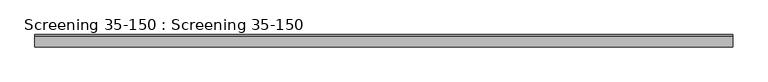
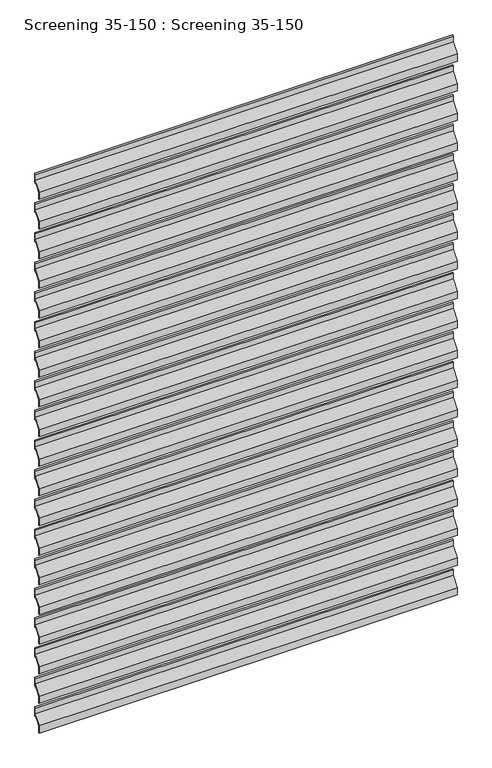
"""IFC4 building model written with IfcOpenShell, lengths in millimetres: plate geometry, Screening 35-150 : Screening 35-150."""

from ifc_helpers import new_model, si_unit, frame, origin, place, context, project, spatial, polyline, outline, extrude, source, transform, mapped, element, save


def screening_35_150_screening_35_150_5006e528(model_context):
    return source(origin(), model_context, "Body", "SweptSolid", [
        extrude(outline(polyline([(-34.9638304, 2712.1), (-34.9638304, 2748.1958995), (-4.35, 2791.9800402), (-4.35, 2819.1451224), (0.0, 2823.4298892), (0.0, 2776.6482493), (-13.0819089, 2776.6482493), (-33.4, 2747.5767062), (-33.4, 2712.1), (-34.9638304, 2712.1)])), frame((-1000.0, 0.0, 0.0), z_axis=(1.0, 0.0, 0.0), x_axis=(0.0, 1.0, 0.0)), (0.0, 0.0, 1.0), 2000.0),
        extrude(outline(polyline([(-34.9638304, 2562.1), (-34.9638304, 2598.1958995), (-4.35, 2641.9800402), (-4.35, 2669.1451224), (0.0, 2673.4298892), (0.0, 2626.6482493), (-13.0819089, 2626.6482493), (-33.4, 2597.5767062), (-33.4, 2562.1), (-34.9638304, 2562.1)])), frame((-1000.0, 0.0, 0.0), z_axis=(1.0, 0.0, 0.0), x_axis=(0.0, 1.0, 0.0)), (0.0, 0.0, 1.0), 2000.0),
        extrude(outline(polyline([(-34.9638304, 2412.1), (-34.9638304, 2448.1958995), (-4.35, 2491.9800402), (-4.35, 2519.1451224), (0.0, 2523.4298892), (0.0, 2476.6482493), (-13.0819089, 2476.6482493), (-33.4, 2447.5767062), (-33.4, 2412.1), (-34.9638304, 2412.1)])), frame((-1000.0, 0.0, 0.0), z_axis=(1.0, 0.0, 0.0), x_axis=(0.0, 1.0, 0.0)), (0.0, 0.0, 1.0), 2000.0),
        extrude(outline(polyline([(-34.9638304, 2262.1), (-34.9638304, 2298.1958995), (-4.35, 2341.9800402), (-4.35, 2369.1451224), (0.0, 2373.4298892), (0.0, 2326.6482493), (-13.0819089, 2326.6482493), (-33.4, 2297.5767062), (-33.4, 2262.1), (-34.9638304, 2262.1)])), frame((-1000.0, 0.0, 0.0), z_axis=(1.0, 0.0, 0.0), x_axis=(0.0, 1.0, 0.0)), (0.0, 0.0, 1.0), 2000.0),
        extrude(outline(polyline([(-34.9638304, 2112.1), (-34.9638304, 2148.1958995), (-4.35, 2191.9800402), (-4.35, 2219.1451224), (0.0, 2223.4298892), (0.0, 2176.6482493), (-13.0819089, 2176.6482493), (-33.4, 2147.5767062), (-33.4, 2112.1), (-34.9638304, 2112.1)])), frame((-1000.0, 0.0, 0.0), z_axis=(1.0, 0.0, 0.0), x_axis=(0.0, 1.0, 0.0)), (0.0, 0.0, 1.0), 2000.0),
        extrude(outline(polyline([(-34.9638304, 1962.1), (-34.9638304, 1998.1958995), (-4.35, 2041.9800402), (-4.35, 2069.1451224), (0.0, 2073.4298892), (0.0, 2026.6482493), (-13.0819089, 2026.6482493), (-33.4, 1997.5767062), (-33.4, 1962.1), (-34.9638304, 1962.1)])), frame((-1000.0, 0.0, 0.0), z_axis=(1.0, 0.0, 0.0), x_axis=(0.0, 1.0, 0.0)), (0.0, 0.0, 1.0), 2000.0),
        extrude(outline(polyline([(-34.9638304, 1812.1), (-34.9638304, 1848.1958995), (-4.35, 1891.9800402), (-4.35, 1919.1451224), (0.0, 1923.4298892), (0.0, 1876.6482493), (-13.0819089, 1876.6482493), (-33.4, 1847.5767062), (-33.4, 1812.1), (-34.9638304, 1812.1)])), frame((-1000.0, 0.0, 0.0), z_axis=(1.0, 0.0, 0.0), x_axis=(0.0, 1.0, 0.0)), (0.0, 0.0, 1.0), 2000.0),
        extrude(outline(polyline([(-34.9638304, 1662.1), (-34.9638304, 1698.1958995), (-4.35, 1741.9800402), (-4.35, 1769.1451224), (0.0, 1773.4298892), (0.0, 1726.6482493), (-13.0819089, 1726.6482493), (-33.4, 1697.5767062), (-33.4, 1662.1), (-34.9638304, 1662.1)])), frame((-1000.0, 0.0, 0.0), z_axis=(1.0, 0.0, 0.0), x_axis=(0.0, 1.0, 0.0)), (0.0, 0.0, 1.0), 2000.0),
        extrude(outline(polyline([(-34.9638304, 1512.1), (-34.9638304, 1548.1958995), (-4.35, 1591.9800402), (-4.35, 1619.1451224), (0.0, 1623.4298892), (0.0, 1576.6482493), (-13.0819089, 1576.6482493), (-33.4, 1547.5767062), (-33.4, 1512.1), (-34.9638304, 1512.1)])), frame((-1000.0, 0.0, 0.0), z_axis=(1.0, 0.0, 0.0), x_axis=(0.0, 1.0, 0.0)), (0.0, 0.0, 1.0), 2000.0),
        extrude(outline(polyline([(-34.9638304, 1362.1), (-34.9638304, 1398.1958995), (-4.35, 1441.9800402), (-4.35, 1469.1451224), (0.0, 1473.4298892), (0.0, 1426.6482493), (-13.0819089, 1426.6482493), (-33.4, 1397.5767062), (-33.4, 1362.1), (-34.9638304, 1362.1)])), frame((-1000.0, 0.0, 0.0), z_axis=(1.0, 0.0, 0.0), x_axis=(0.0, 1.0, 0.0)), (0.0, 0.0, 1.0), 2000.0),
        extrude(outline(polyline([(-34.9638304, 1212.1), (-34.9638304, 1248.1958995), (-4.35, 1291.9800402), (-4.35, 1319.1451224), (0.0, 1323.4298892), (0.0, 1276.6482493), (-13.0819089, 1276.6482493), (-33.4, 1247.5767062), (-33.4, 1212.1), (-34.9638304, 1212.1)])), frame((-1000.0, 0.0, 0.0), z_axis=(1.0, 0.0, 0.0), x_axis=(0.0, 1.0, 0.0)), (0.0, 0.0, 1.0), 2000.0),
        extrude(outline(polyline([(-34.9638304, 1062.1), (-34.9638304, 1098.1958995), (-4.35, 1141.9800402), (-4.35, 1169.1451224), (0.0, 1173.4298892), (0.0, 1126.6482493), (-13.0819089, 1126.6482493), (-33.4, 1097.5767062), (-33.4, 1062.1), (-34.9638304, 1062.1)])), frame((-1000.0, 0.0, 0.0), z_axis=(1.0, 0.0, 0.0), x_axis=(0.0, 1.0, 0.0)), (0.0, 0.0, 1.0), 2000.0),
        extrude(outline(polyline([(-34.9638304, 912.1), (-34.9638304, 948.1958995), (-4.35, 991.9800402), (-4.35, 1019.1451224), (0.0, 1023.4298892), (0.0, 976.6482493), (-13.0819089, 976.6482493), (-33.4, 947.5767062), (-33.4, 912.1), (-34.9638304, 912.1)])), frame((-1000.0, 0.0, 0.0), z_axis=(1.0, 0.0, 0.0), x_axis=(0.0, 1.0, 0.0)), (0.0, 0.0, 1.0), 2000.0),
        extrude(outline(polyline([(-34.9638304, 762.1), (-34.9638304, 798.1958995), (-4.35, 841.9800402), (-4.35, 869.1451224), (0.0, 873.4298892), (0.0, 826.6482493), (-13.0819089, 826.6482493), (-33.4, 797.5767062), (-33.4, 762.1), (-34.9638304, 762.1)])), frame((-1000.0, 0.0, 0.0), z_axis=(1.0, 0.0, 0.0), x_axis=(0.0, 1.0, 0.0)), (0.0, 0.0, 1.0), 2000.0),
        extrude(outline(polyline([(-34.9638304, 612.1), (-34.9638304, 648.1958995), (-4.35, 691.9800402), (-4.35, 719.1451224), (0.0, 723.4298892), (0.0, 676.6482493), (-13.0819089, 676.6482493), (-33.4, 647.5767062), (-33.4, 612.1), (-34.9638304, 612.1)])), frame((-1000.0, 0.0, 0.0), z_axis=(1.0, 0.0, 0.0), x_axis=(0.0, 1.0, 0.0)), (0.0, 0.0, 1.0), 2000.0),
        extrude(outline(polyline([(-34.9638304, 462.1), (-34.9638304, 498.1958995), (-4.35, 541.9800402), (-4.35, 569.1451224), (0.0, 573.4298892), (0.0, 526.6482493), (-13.0819089, 526.6482493), (-33.4, 497.5767062), (-33.4, 462.1), (-34.9638304, 462.1)])), frame((-1000.0, 0.0, 0.0), z_axis=(1.0, 0.0, 0.0), x_axis=(0.0, 1.0, 0.0)), (0.0, 0.0, 1.0), 2000.0),
        extrude(outline(polyline([(-34.9638304, 312.1), (-34.9638304, 348.1958995), (-4.35, 391.9800402), (-4.35, 419.1451224), (0.0, 423.4298892), (0.0, 376.6482493), (-13.0819089, 376.6482493), (-33.4, 347.5767062), (-33.4, 312.1), (-34.9638304, 312.1)])), frame((-1000.0, 0.0, 0.0), z_axis=(1.0, 0.0, 0.0), x_axis=(0.0, 1.0, 0.0)), (0.0, 0.0, 1.0), 2000.0),
        extrude(outline(polyline([(-34.9638304, 162.1), (-34.9638304, 198.1958995), (-4.35, 241.9800402), (-4.35, 269.1451224), (0.0, 273.4298892), (0.0, 226.6482493), (-13.0819089, 226.6482493), (-33.4, 197.5767062), (-33.4, 162.1), (-34.9638304, 162.1)])), frame((-1000.0, 0.0, 0.0), z_axis=(1.0, 0.0, 0.0), x_axis=(0.0, 1.0, 0.0)), (0.0, 0.0, 1.0), 2000.0),
        extrude(outline(polyline([(-34.9638304, 12.1), (-34.9638304, 48.1958995), (-4.35, 91.9800402), (-4.35, 119.1451224), (0.0, 123.4298892), (0.0, 76.6482493), (-13.0819089, 76.6482493), (-33.4, 47.5767062), (-33.4, 12.1), (-34.9638304, 12.1)])), frame((-1000.0, 0.0, 0.0), z_axis=(1.0, 0.0, 0.0), x_axis=(0.0, 1.0, 0.0)), (0.0, 0.0, 1.0), 2000.0),
    ])


if __name__ == "__main__":
    model = new_model("IFC4")
    model_context = context("Model", 3, world=origin())
    ifc_project = project(units=[si_unit("LENGTHUNIT", "METRE", prefix="MILLI")], contexts=[model_context])
    site = spatial("IfcSite", under=ifc_project)
    building = spatial("IfcBuilding", under=site)
    placement = place(None, origin())
    screening_35_150_screening_35_150_shape = screening_35_150_screening_35_150_5006e528(model_context)
    element("IfcPlate", 1, ObjectType="Screening 35-150 : Screening 35-150", at=placement, inside=building, context=model_context, shape_type="MappedRepresentation", body=[
        mapped(screening_35_150_screening_35_150_shape, transform((0.0, 0.0, 0.0), x_axis=(1.0, 0.0, 0.0), y_axis=(0.0, 1.0, 0.0), z_axis=(0.0, 0.0, 1.0))),
    ])
    save(model, "model.ifc")
